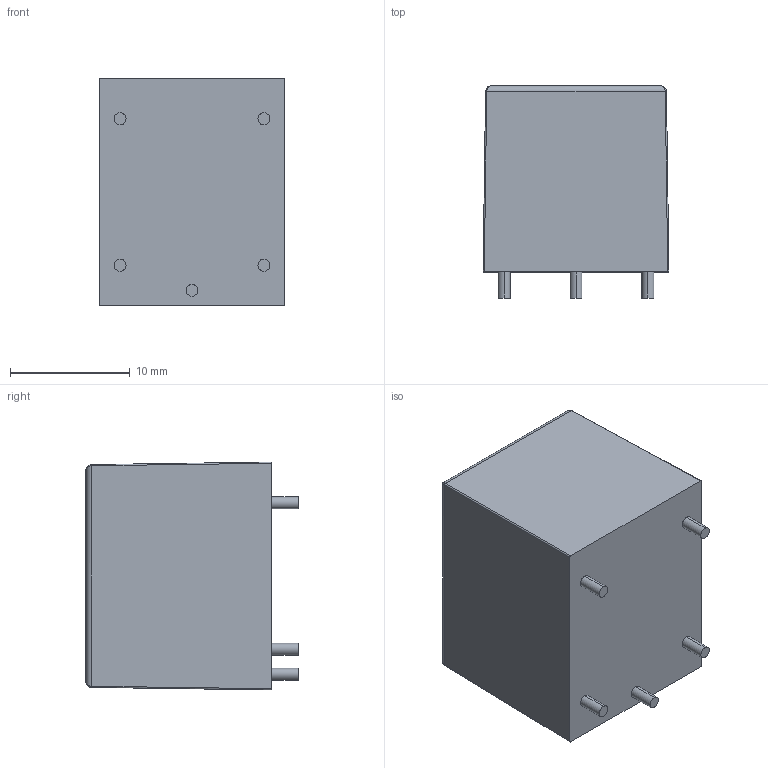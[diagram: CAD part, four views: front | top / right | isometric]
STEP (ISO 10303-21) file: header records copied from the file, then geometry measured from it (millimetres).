
FILE_DESCRIPTION (( 'STEP AP214' ), '1' );
FILE_NAME ('User Library-Tianbo Relay ( HJR-3FF-S-Z).STEP', '2020-04-28T04:48:50', ( '' ), ( '' ), 'SwSTEP 2.0', 'SolidWorks 2019', '' );
FILE_SCHEMA (( 'AUTOMOTIVE_DESIGN' ));
Length unit declared in the file: millimetre
Products named in the file (1): User Library-Tianbo Relay ( HJR-3FF-S-Z)
Bounding box: 15.5 x 17.71 x 19 mm (x, y, z)
Volume: 4450.1 mm3; surface area: 1655.4 mm2
Topology: 1 solids, 1 shells, 744 faces, 1994 edges, 1320 vertices
Faces by surface type: plane 420, bspline 293, cylinder 27, torus 4
Entity records: 45848 total; most frequent: CARTESIAN_POINT 21658, ORIENTED_EDGE 3980, DIRECTION 2338, EDGE_CURVE 1990, LINE 1354, VECTOR 1354, VERTEX_POINT 1320, EDGE_LOOP 816
